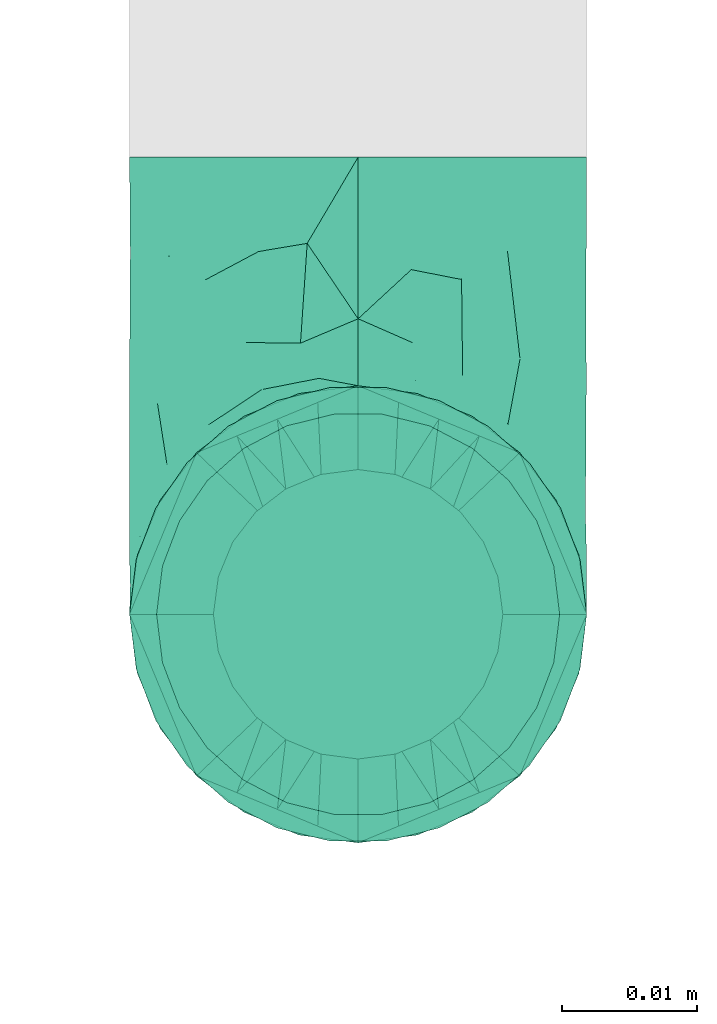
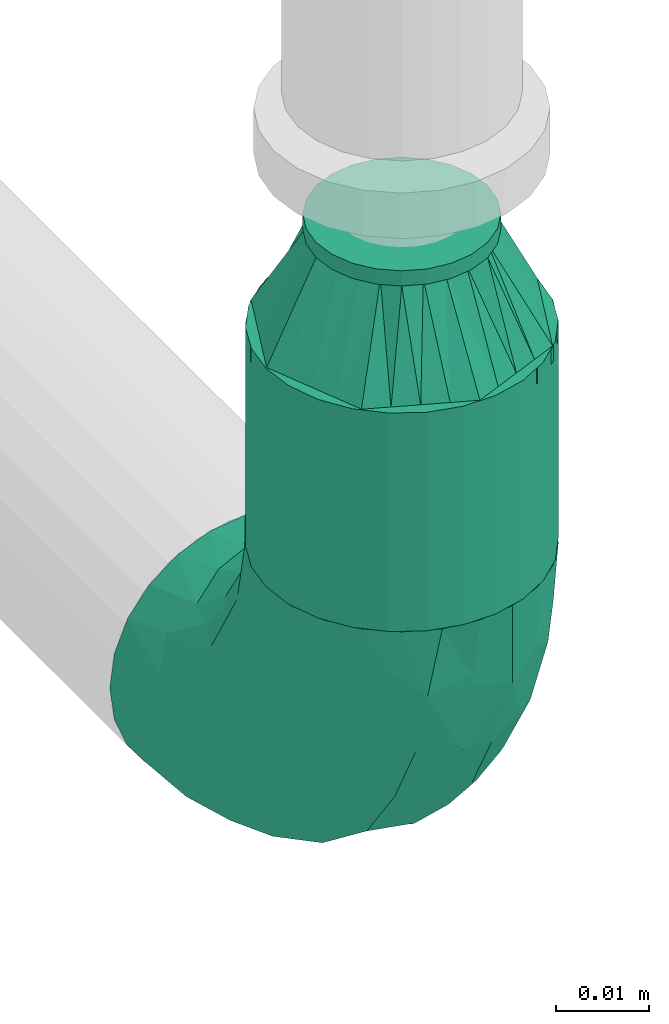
# One storey, part 8 of 31: 2 flow fittings, 1 flow segment.
"""IFC2X3 building model written with IfcOpenShell, lengths in millimetres."""

from ifc_helpers import new_model, entity, si_unit, converted_unit, derived_unit, direction, frame, origin_with_axes, origin_2d_with_axis, place, context, subcontext, project, spatial, hollow_circle, extrude, open_shell, surface_model, source, transform, mapped, type_object, element, save


model = new_model("IFC2X3")

# Units and contexts
model_context = context("Model", 3, precision=0.01, world=frame((0.0, 4.29681676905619e-09, 0.0)), true_north=direction((4.01073788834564e-13, 1.0)))
plan_context = context("Plan", 3, precision=0.01, world=frame((0.0, 4.29681676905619e-09, 0.0)), true_north=direction((4.01073788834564e-13, 1.0)))
body_context = subcontext(model_context, "Body", "Model", "MODEL_VIEW")
ifc_project = project(units=[converted_unit("PLANEANGLEUNIT", "DEGREE", entity("IfcPositiveLengthMeasure", 0.0174532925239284), si_unit("PLANEANGLEUNIT", "RADIAN"), dimensions=[0, 0, 0, 0, 0, 0, 0]), si_unit("AREAUNIT", "SQUARE_METRE"), si_unit("LENGTHUNIT", "METRE", prefix="MILLI"), si_unit("MASSUNIT", "GRAM", prefix="KILO"), si_unit("POWERUNIT", "WATT"), si_unit("PRESSUREUNIT", "PASCAL", prefix="KILO"), si_unit("FORCEUNIT", "NEWTON", prefix="KILO"), si_unit("ELECTRICVOLTAGEUNIT", "VOLT"), si_unit("ELECTRICCURRENTUNIT", "AMPERE"), si_unit("THERMODYNAMICTEMPERATUREUNIT", "DEGREE_CELSIUS"), si_unit("TIMEUNIT", "SECOND"), si_unit("VOLUMEUNIT", "CUBIC_METRE"), derived_unit("LINEARVELOCITYUNIT", [(si_unit("LENGTHUNIT", "METRE"), 1), (si_unit("TIMEUNIT", "SECOND"), -1)]), derived_unit("VOLUMETRICFLOWRATEUNIT", [(si_unit("VOLUMEUNIT", "CUBIC_METRE"), 1), (si_unit("TIMEUNIT", "SECOND"), -1)]), derived_unit("THERMALTRANSMITTANCEUNIT", [(si_unit("POWERUNIT", "WATT"), 1), (si_unit("THERMODYNAMICTEMPERATUREUNIT", "KELVIN"), -1), (si_unit("AREAUNIT", "SQUARE_METRE"), -1)]), derived_unit("SOUNDPRESSUREUNIT", [(si_unit("PRESSUREUNIT", "PASCAL"), 1)])], contexts=[model_context, plan_context])

# Site, building, storey
site_placement = place(None, frame((0.0, -4.29681676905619e-09, 0.0), z_axis=(0.0, 0.0, 1.0), x_axis=(1.0, 0.0, 0.0)))
site = spatial("IfcSite", under=ifc_project, at=site_placement, CompositionType="ELEMENT")
building_placement = place(site_placement, frame((0.0, 4.29681676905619e-09, 0.0), z_axis=(0.0, 0.0, 1.0), x_axis=(1.0, 0.0, 0.0)))
building = spatial("IfcBuilding", under=site, at=building_placement, Name="mc-building", CompositionType="ELEMENT")
storey_placement = place(building_placement, frame((0.0, 0.0, 200300.0), z_axis=(0.0, 0.0, 1.0), x_axis=(1.0, 0.0, 0.0)))
storey = spatial("IfcBuildingStorey", under=building, at=storey_placement, Name="Nivå C", CompositionType="ELEMENT", Elevation=200300.0)

# Flow fittings
pipe_fitting_type_1 = type_object("IfcPipeFittingType", Name="magi_pipe_fe_reducer_centric_short_NOR", PredefinedType="TRANSITION")
shared_shape_1 = source(origin_with_axes(), body_context, "Body", "SurfaceModel", [
    surface_model("IfcShellBasedSurfaceModel", [(14.4, 5.35, -9.26647), (14.4, 0.0, -10.7), (14.4, 2.76936, -10.33541), (14.4, 10.33541, -2.76936), (14.4, 7.56604, -7.56604), (14.4, -10.33541, -2.76936), (14.4, 9.26647, -5.35), (14.4, 0.0, 10.7), (14.4, -5.35, -9.26647), (14.4, -2.76936, -10.33541), (14.4, -7.56604, -7.56604), (14.4, -9.26647, -5.35), (14.4, 10.7, 0.0), (14.4, 10.33541, 2.76936), (14.4, 9.26647, 5.35), (14.4, 7.56604, 7.56604), (14.4, 2.76936, 10.33541), (14.4, 5.35, 9.26647), (14.4, -10.33541, 2.76936), (14.4, -7.56604, 7.56604), (14.4, -9.26647, 5.35), (14.4, -10.7, 0.0), (14.4, -2.76936, 10.33541), (14.4, -5.35, 9.26647), (12.4, 2.76936, 10.33541), (12.4, -10.33541, -2.76936), (12.4, 0.0, 10.7), (12.4, 5.35, 9.26647), (12.4, 7.56604, 7.56604), (12.4, 9.26647, 5.35), (12.4, 10.33541, 2.76936), (12.4, -10.33541, 2.76936), (12.4, -2.76936, 10.33541), (12.4, -7.56604, 7.56604), (12.4, -5.35, 9.26647), (12.4, -9.26647, 5.35), (12.4, -10.7, 0.0), (12.4, 10.33541, -2.76936), (12.4, 5.35, -9.26647), (12.4, 9.26647, -5.35), (12.4, 7.56604, -7.56604), (12.4, 2.76936, -10.33541), (12.4, -9.26647, -5.35), (12.4, -5.35, -9.26647), (12.4, -7.56604, -7.56604), (12.4, 0.0, -10.7), (12.4, -2.76936, -10.33541), (12.4, 10.7, 0.0), (-2.0, 11.9501, 11.9501), (-2.0, 0.0, 16.9), (-2.0, 4.37404, 16.32415), (-2.0, 8.45, 14.63583), (-2.0, 14.63583, 8.45), (-2.0, 16.32415, 4.37404), (-2.0, -16.32415, 4.37404), (-2.0, -8.45, 14.63583), (-2.0, -14.63583, 8.45), (-2.0, -11.9501, 11.9501), (-2.0, -4.37404, 16.32415), (-2.0, -16.32415, -4.37404), (-2.0, -16.9, 0.0), (-2.0, -8.45, -14.63583), (-2.0, 16.32415, -4.37404), (-2.0, 11.9501, -11.9501), (-2.0, 14.63583, -8.45), (-2.0, 8.45, -14.63583), (-2.0, 4.37404, -16.32415), (-2.0, 0.0, -16.9), (-2.0, -11.9501, -11.9501), (-2.0, -14.63583, -8.45), (-2.0, -4.37404, -16.32415), (-2.0, 16.9, 0.0), (0.0, 4.37404, -16.32415), (0.0, 8.45, -14.63583), (0.0, 11.9501, -11.9501), (0.0, 0.0, -16.9), (0.0, 16.32415, -4.37404), (0.0, 16.32415, 4.37404), (0.0, 14.63583, -8.45), (0.0, -8.45, -14.63583), (0.0, -4.37404, -16.32415), (0.0, -11.9501, -11.9501), (0.0, -16.32415, -4.37404), (0.0, -14.63583, -8.45), (0.0, -16.32415, 4.37404), (0.0, 16.9, 0.0), (0.0, 14.63583, 8.45), (0.0, 11.9501, 11.9501), (0.0, 4.37404, 16.32415), (0.0, 8.45, 14.63583), (0.0, 0.0, 16.9), (0.0, -14.63583, 8.45), (0.0, -16.9, 0.0), (0.0, -8.45, 14.63583), (0.0, -11.9501, 11.9501), (0.0, -4.37404, 16.32415), (12.4, 9.3625, -2.31662), (0.0, 14.42505, -5.97505), (0.0, 15.66253, -2.98753), (12.4, -6.6875, -6.94985), (0.0, -13.18758, -8.96258), (0.0, 2.98753, -15.66253), (12.4, 0.0, -9.26647), (12.4, 6.6875, -6.94985), (0.0, 8.96258, -13.18758), (12.4, -9.3625, -2.31662), (0.0, -15.66253, -2.98753), (0.0, -14.42505, -5.97505), (0.0, 5.97505, -14.42505), (0.0, -2.98753, -15.66253), (0.0, -8.96258, -13.18758), (0.0, 13.18758, -8.96258), (12.4, 8.025, -4.63324), (12.4, -2.675, -9.26647), (12.4, 2.675, -9.26647), (0.0, -5.97505, -14.42505), (12.4, -8.025, -4.63324), (12.4, -9.3625, 2.31662), (0.0, -14.42505, 5.97505), (0.0, -15.66253, 2.98753), (12.4, 6.6875, 6.94985), (0.0, 13.18758, 8.96258), (0.0, -2.98753, 15.66253), (12.4, 0.0, 9.26647), (12.4, -6.6875, 6.94985), (0.0, -8.96258, 13.18758), (12.4, 9.3625, 2.31662), (0.0, 15.66253, 2.98753), (0.0, 14.42505, 5.97505), (0.0, -5.97505, 14.42505), (0.0, 2.98753, 15.66253), (0.0, 8.96258, 13.18758), (0.0, -13.18758, 8.96258), (12.4, -8.025, 4.63324), (12.4, 2.675, 9.26647), (12.4, -2.675, 9.26647), (0.0, 5.97505, 14.42505), (12.4, 8.025, 4.63324)], [open_shell([[[0, 1, 2]], [[3, 0, 4]], [[5, 0, 3]], [[3, 4, 6]], [[7, 5, 3]], [[1, 8, 9]], [[1, 0, 8]], [[10, 5, 11]], [[5, 10, 8]], [[0, 5, 8]], [[3, 12, 13]], [[13, 14, 15]], [[13, 15, 16]], [[7, 3, 16]], [[16, 15, 17]], [[7, 18, 5]], [[18, 19, 20]], [[21, 5, 18]], [[19, 22, 23]], [[22, 19, 18]], [[7, 22, 18]], [[13, 16, 3]], [[24, 25, 26]], [[27, 25, 24]], [[28, 29, 30]], [[28, 25, 27]], [[31, 26, 25]], [[32, 33, 34]], [[33, 32, 31]], [[33, 31, 35]], [[32, 26, 31]], [[31, 25, 36]], [[30, 37, 28]], [[25, 28, 37]], [[38, 37, 39]], [[37, 38, 25]], [[38, 39, 40]], [[41, 25, 38]], [[42, 43, 44]], [[43, 42, 25]], [[43, 45, 46]], [[43, 25, 41]], [[41, 45, 43]], [[37, 30, 47]], [[25, 5, 36]], [[42, 11, 25]], [[8, 44, 43]], [[42, 44, 10]], [[9, 43, 46]], [[25, 11, 5]], [[5, 21, 36]], [[9, 8, 43]], [[10, 44, 8]], [[10, 11, 42]], [[1, 9, 46]], [[46, 45, 1]], [[41, 2, 45]], [[38, 0, 41]], [[6, 40, 39]], [[38, 40, 4]], [[3, 39, 37]], [[38, 4, 0]], [[0, 2, 41]], [[12, 3, 37]], [[6, 39, 3]], [[6, 4, 40]], [[47, 12, 37]], [[45, 2, 1]], [[30, 13, 47]], [[29, 14, 30]], [[17, 28, 27]], [[29, 28, 15]], [[16, 27, 24]], [[30, 14, 13]], [[13, 12, 47]], [[16, 17, 27]], [[15, 28, 17]], [[15, 14, 29]], [[7, 16, 24]], [[24, 26, 7]], [[32, 22, 26]], [[34, 23, 32]], [[20, 33, 35]], [[34, 33, 19]], [[18, 35, 31]], [[34, 19, 23]], [[23, 22, 32]], [[21, 18, 31]], [[20, 35, 18]], [[20, 19, 33]], [[36, 21, 31]], [[26, 22, 7]], [[48, 49, 50]], [[48, 50, 51]], [[48, 52, 53]], [[48, 53, 49]], [[49, 53, 54]], [[55, 56, 57]], [[55, 58, 49]], [[56, 55, 49]], [[49, 54, 56]], [[54, 59, 60]], [[54, 53, 61]], [[53, 62, 63]], [[63, 62, 64]], [[63, 65, 66]], [[61, 53, 63]], [[67, 63, 66]], [[59, 68, 69]], [[68, 59, 61]], [[61, 67, 70]], [[59, 54, 61]], [[63, 67, 61]], [[53, 71, 62]], [[72, 73, 74]], [[75, 72, 74]], [[74, 76, 77]], [[76, 74, 78]], [[74, 77, 79]], [[75, 79, 80]], [[75, 74, 79]], [[81, 82, 83]], [[82, 81, 79]], [[79, 84, 82]], [[77, 76, 85]], [[77, 86, 87]], [[77, 87, 88]], [[88, 84, 79]], [[88, 87, 89]], [[84, 88, 90]], [[90, 91, 84]], [[92, 82, 84]], [[91, 93, 94]], [[91, 90, 93]], [[93, 90, 95]], [[79, 77, 88]], [[59, 82, 60]], [[69, 83, 59]], [[79, 68, 61]], [[69, 68, 81]], [[80, 61, 70]], [[59, 83, 82]], [[82, 92, 60]], [[80, 79, 61]], [[81, 68, 79]], [[81, 83, 69]], [[75, 80, 70]], [[70, 67, 75]], [[66, 72, 67]], [[65, 73, 66]], [[78, 63, 64]], [[65, 63, 74]], [[76, 64, 62]], [[65, 74, 73]], [[73, 72, 66]], [[85, 76, 62]], [[78, 64, 76]], [[78, 74, 63]], [[71, 85, 62]], [[67, 72, 75]], [[53, 77, 71]], [[52, 86, 53]], [[89, 48, 51]], [[52, 48, 87]], [[88, 51, 50]], [[53, 86, 77]], [[77, 85, 71]], [[88, 89, 51]], [[87, 48, 89]], [[87, 86, 52]], [[90, 88, 50]], [[50, 49, 90]], [[58, 95, 49]], [[55, 93, 58]], [[91, 57, 56]], [[55, 57, 94]], [[84, 56, 54]], [[55, 94, 93]], [[93, 95, 58]], [[92, 84, 54]], [[91, 56, 84]], [[91, 94, 57]], [[60, 92, 54]], [[49, 95, 90]], [[27, 34, 47]], [[47, 34, 43]], [[43, 38, 47]], [[43, 34, 36]], [[90, 87, 94]], [[92, 94, 87]], [[87, 74, 92]], [[75, 92, 74]], [[81, 92, 75]], [[74, 87, 85]], [[96, 97, 98]], [[81, 99, 100]], [[101, 102, 75]], [[98, 85, 47]], [[74, 103, 104]], [[104, 103, 38]], [[105, 106, 107]], [[38, 108, 104]], [[102, 109, 75]], [[110, 99, 81]], [[47, 96, 98]], [[103, 111, 112]], [[109, 102, 113]], [[36, 92, 106]], [[102, 101, 114]], [[110, 115, 43]], [[96, 112, 97]], [[107, 116, 105]], [[36, 106, 105]], [[113, 115, 109]], [[43, 115, 113]], [[116, 107, 100]], [[108, 38, 114]], [[111, 103, 74]], [[111, 97, 112]], [[99, 110, 43]], [[116, 100, 99]], [[101, 108, 114]], [[117, 118, 119]], [[87, 120, 121]], [[122, 123, 90]], [[119, 92, 36]], [[94, 124, 125]], [[125, 124, 34]], [[126, 127, 128]], [[34, 129, 125]], [[123, 130, 90]], [[131, 120, 87]], [[36, 117, 119]], [[124, 132, 133]], [[130, 123, 134]], [[47, 85, 127]], [[123, 122, 135]], [[131, 136, 27]], [[117, 133, 118]], [[128, 137, 126]], [[47, 127, 126]], [[134, 136, 130]], [[27, 136, 134]], [[137, 128, 121]], [[129, 34, 135]], [[132, 124, 94]], [[132, 118, 133]], [[120, 131, 27]], [[137, 121, 120]], [[122, 129, 135]]])]),
])
flow_fitting_1_placement = place(storey_placement, frame((605500.0, 397923.19532, 2962.64799999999), z_axis=(0.0, 1.0, 0.0), x_axis=(0.0, 0.0, 1.0)))
element("IfcFlowFitting", 1, at=flow_fitting_1_placement, inside=storey, type_object=pipe_fitting_type_1, Name="magi_pipe_fe_reducer_centric_short_NOR", context=body_context, shape_type="MappedRepresentation", body=[
    mapped(shared_shape_1, transform((0.0, 0.0, 0.0), scale=1.0)),
])
pipe_fitting_type_2 = type_object("IfcPipeFittingType", Name="magi_pipe_fe_elbow_short_001", PredefinedType="BEND")
shared_shape_2 = source(origin_with_axes(), body_context, "Body", "SurfaceModel", [
    surface_model("IfcShellBasedSurfaceModel", [(-33.8, 8.45, -14.63583), (-33.8, 4.37404, -16.32415), (-33.8, 11.9501, -11.9501), (-33.8, -11.9501, -11.9501), (-33.8, -14.63583, -8.45), (-33.8, -8.45, -14.63583), (-33.8, 0.0, -16.9), (-33.8, -4.37404, -16.32415), (-33.8, -4.37404, 16.32415), (-33.8, 0.0, 16.9), (-33.8, -8.45, 14.63583), (-33.8, 16.32415, -4.37404), (-33.8, 14.63583, -8.45), (-33.8, -16.32415, -4.37404), (-33.8, -16.9, 0.0), (-33.8, -16.32415, 4.37404), (-33.8, 11.9501, 11.9501), (-33.8, 14.63583, 8.45), (-33.8, 16.32415, 4.37404), (-33.8, 4.37404, 16.32415), (-33.8, 8.45, 14.63583), (-33.8, -14.63583, 8.45), (-33.8, -11.9501, 11.9501), (-33.8, 16.9, 0.0), (-11.9501, 33.8, -11.9501), (0.0, 33.8, -16.9), (-4.37404, 33.8, -16.32415), (-8.45, 33.8, -14.63583), (-14.63583, 33.8, -8.45), (-16.32415, 33.8, -4.37404), (14.63583, 33.8, -8.45), (8.45, 33.8, 14.63583), (16.32415, 33.8, -4.37404), (8.45, 33.8, -14.63583), (11.9501, 33.8, -11.9501), (4.37404, 33.8, -16.32415), (16.32415, 33.8, 4.37404), (16.9, 33.8, 0.0), (-11.9501, 33.8, 11.9501), (-16.32415, 33.8, 4.37404), (-14.63583, 33.8, 8.45), (-8.45, 33.8, 14.63583), (-4.37404, 33.8, 16.32415), (11.9501, 33.8, 11.9501), (14.63583, 33.8, 8.45), (0.0, 33.8, 16.9), (4.37404, 33.8, 16.32415), (-16.9, 33.8, 0.0), (-24.79389, -13.12945, 9.48721), (-22.19287, -9.75018, 12.59315), (-24.09897, -14.97035, 0.0), (-14.93934, -10.76256, 8.5297), (-22.46095, -14.75051, 5.27077), (14.75051, 22.46094, 5.27077), (11.9251, 13.23888, 4.33236), (13.04069, 14.39795, 0.0), (7.71387, 13.68847, 11.55891), (9.75018, 22.19287, 12.59315), (4.10169, 13.0571, 14.04018), (-24.84007, -6.39063, 15.2048), (-25.81779, -2.23879, 16.61097), (-23.66549, 2.59054, 16.87119), (-26.50418, 14.06512, 11.08152), (-24.21253, 17.66365, 7.72657), (-29.58514, 15.86957, 7.00283), (-6.17382, -7.5455, 0.0), (-13.23888, -11.9251, 4.33236), (-14.39795, -13.04069, 0.0), (-17.81434, 18.87373, 11.97104), (-6.30846, 29.15138, 15.82987), (-2.31622, 25.28002, 16.85849), (-29.23923, 10.23435, 13.77053), (-1.45439, -2.85688, 7.61475), (-0.28326, 0.34872, 10.09509), (-5.74484, -4.04709, 10.4122), (-4.41137, 11.31918, 16.59407), (-8.39727, 3.10034, 15.7812), (-1.72649, 9.1306, 15.53089), (-17.39909, 24.75344, 7.64977), (-26.19233, 20.0512, 0.0), (-28.14518, 17.29657, 4.25857), (-26.05147, 6.6281, 15.96447), (-5.87354, 16.61944, 16.86968), (-12.51807, 12.51807, 16.48937), (-10.06312, 7.38516, 16.81295), (-3.01882, 3.01882, 13.81718), (-13.0571, -4.10169, 14.04018), (-16.82553, -0.15166, 16.38038), (10.76256, 14.93934, 8.5297), (13.12945, 24.79389, 9.48721), (6.39063, 24.84007, 15.2048), (2.23879, 25.81779, 16.61097), (-13.68847, -7.71387, 11.55891), (14.97035, 24.09897, 0.0), (-7.30894, 22.89991, 16.09489), (-10.67958, 26.17414, 14.008), (-12.78295, 18.26924, 15.06066), (-13.88562, 22.45231, 12.93244), (-18.04944, 15.16501, 14.04434), (-23.11658, 20.08178, 4.02986), (-21.84989, 21.84989, 0.0), (-18.55817, 25.48277, 3.93065), (-13.95142, 26.94732, 11.03289), (-18.57098, 7.23906, 16.59756), (-16.58335, 4.14122, 16.89279), (-17.96666, 11.46709, 15.63151), (-9.84453, 17.54304, 16.18938), (0.15166, 16.82553, 16.38038), (-23.27207, 11.47201, 14.23154), (3.84842, 5.86994, 10.70473), (-8.0212, -7.54413, 7.93275), (1.00345, -2.19508, 4.57414), (5.13203, 3.01004, 5.90201), (5.24161, 1.7543, 2.53265), (8.70457, 7.04947, 3.99182), (-20.0512, 26.19233, 0.0), (8.4852, 8.76699, 7.09296), (-4.55488, -6.72064, 4.90681), (2.05031, -2.05031, 0.0), (7.5455, 6.17382, 0.0), (-26.75399, 2.1369, -16.845), (-14.61995, 24.73803, -11.27736), (-28.45274, -13.45335, -9.81895), (-26.00469, 6.63555, -15.96645), (-23.06726, 20.04573, -4.26202), (-13.80647, -4.26506, -14.17873), (-14.67501, -0.21081, -16.07388), (-6.7902, -0.2828, -13.8478), (-24.53586, 11.08096, -14.13417), (-26.72048, 14.00837, -11.05776), (10.0967, 24.44989, -12.75976), (5.83237, 21.40218, -15.03047), (6.66249, 28.54238, -15.38093), (-20.38182, 15.48705, -12.74596), (12.53268, 21.23441, -9.15363), (12.54494, 15.67504, -5.54878), (9.7522, 12.89279, -8.66343), (-15.65186, 19.64213, -13.01327), (-12.03528, 20.66498, -14.67665), (-15.61907, 15.61906, -14.83879), (-25.56551, -15.26206, 0.0), (-24.65452, -15.12934, -5.50955), (13.45335, 28.45274, -9.81895), (15.12934, 24.65452, -5.50955), (-7.35442, -8.31014, -5.65563), (-15.67504, -12.54494, -5.54878), (-24.44989, -10.0967, -12.75976), (0.16522, 0.41303, -9.71728), (-5.70658, -5.33066, -8.89288), (-5.13869, -2.37198, -11.53565), (-21.23441, -12.53268, -9.15363), (0.71146, 7.93863, -14.09382), (0.21081, 14.67501, -16.07388), (3.49291, 14.42772, -14.76381), (-24.89911, -2.13088, -16.591), (-28.54238, -6.66249, -15.38093), (-18.44386, -7.71663, -13.26957), (2.13088, 24.89911, -16.591), (-28.64342, 17.44413, -2.89318), (1.70017, -1.28722, -5.09504), (-16.57067, 26.81947, -7.36596), (-17.69055, 27.4263, -3.76405), (-12.89279, -9.7522, -8.66343), (-5.96611, 5.96611, -15.95814), (-20.53709, 20.09345, -8.28985), (-2.1369, 26.75399, -16.845), (-6.89872, 24.58781, -16.02578), (-10.60739, 26.53157, -13.98044), (-21.40218, -5.83237, -15.03047), (2.93192, 5.89627, -11.55917), (6.89393, 12.61842, -11.82233), (5.58056, 5.95325, -8.79455), (-3.99512, 18.61798, -16.89635), (8.31014, 7.35442, -5.65563), (-9.1383, 9.86148, -16.89041), (-9.99983, 16.02119, -16.39699), (-16.68576, 9.78031, -16.34199), (-27.01915, 16.61158, -7.12979), (15.26206, 25.56551, 0.0), (-18.61798, 3.99512, -16.89635), (-19.37495, 27.82495, 0.0), (-12.61842, -6.89393, -11.82233), (-18.84705, 19.14018, -10.96545)], [open_shell([[[0, 1, 2]], [[3, 4, 5]], [[6, 7, 5]], [[8, 9, 10]], [[1, 6, 2]], [[11, 12, 2]], [[4, 2, 6]], [[2, 13, 10]], [[5, 4, 6]], [[2, 4, 13]], [[14, 15, 13]], [[11, 2, 16]], [[11, 17, 18]], [[11, 16, 17]], [[19, 20, 16]], [[16, 2, 10]], [[19, 16, 10]], [[21, 22, 15]], [[22, 13, 15]], [[22, 10, 13]], [[10, 9, 19]], [[11, 18, 23]], [[24, 25, 26]], [[24, 26, 27]], [[24, 28, 29]], [[25, 24, 30]], [[31, 32, 24]], [[33, 30, 34]], [[33, 35, 25]], [[25, 30, 33]], [[32, 30, 24]], [[32, 36, 37]], [[38, 24, 29]], [[39, 40, 29]], [[40, 38, 29]], [[38, 41, 42]], [[38, 31, 24]], [[31, 38, 42]], [[36, 43, 44]], [[36, 32, 43]], [[31, 45, 46]], [[32, 31, 43]], [[42, 45, 31]], [[39, 29, 47]], [[22, 48, 49]], [[15, 14, 50]], [[51, 48, 52]], [[53, 54, 55]], [[48, 22, 21]], [[15, 52, 21]], [[56, 57, 58]], [[49, 10, 22]], [[49, 59, 10]], [[9, 60, 61]], [[62, 63, 64]], [[65, 66, 67]], [[57, 43, 31]], [[62, 68, 63]], [[42, 69, 70]], [[20, 71, 16]], [[8, 60, 9]], [[72, 73, 74]], [[75, 76, 77]], [[16, 62, 17]], [[40, 39, 78]], [[79, 23, 80]], [[64, 18, 17]], [[9, 61, 19]], [[19, 81, 20]], [[82, 83, 84]], [[74, 85, 86]], [[59, 86, 87]], [[88, 89, 57]], [[90, 31, 46]], [[44, 53, 36]], [[46, 45, 91]], [[54, 53, 88]], [[44, 89, 53]], [[92, 86, 49]], [[89, 44, 43]], [[10, 59, 8]], [[53, 55, 93]], [[93, 36, 53]], [[66, 52, 67]], [[94, 82, 70]], [[95, 96, 94]], [[97, 98, 96]], [[79, 99, 100]], [[41, 38, 95]], [[101, 100, 99]], [[68, 78, 63]], [[42, 41, 69]], [[23, 18, 80]], [[95, 94, 69]], [[78, 101, 99]], [[38, 102, 95]], [[70, 45, 42]], [[97, 95, 102]], [[15, 50, 52]], [[90, 57, 31]], [[57, 90, 58]], [[81, 19, 61]], [[103, 104, 84]], [[105, 81, 103]], [[38, 40, 102]], [[106, 96, 83]], [[94, 106, 82]], [[91, 70, 107]], [[71, 62, 16]], [[62, 108, 98]], [[86, 59, 49]], [[67, 52, 50]], [[60, 59, 87]], [[92, 49, 51]], [[86, 85, 76]], [[91, 90, 46]], [[37, 36, 93]], [[107, 77, 58]], [[107, 58, 90]], [[58, 85, 109]], [[110, 74, 92]], [[72, 74, 110]], [[66, 51, 52]], [[72, 111, 112]], [[113, 114, 112]], [[56, 88, 57]], [[52, 48, 21]], [[49, 48, 51]], [[57, 89, 43]], [[53, 89, 88]], [[103, 81, 61]], [[71, 81, 108]], [[18, 64, 80]], [[63, 78, 99]], [[47, 115, 101]], [[101, 115, 100]], [[40, 78, 102]], [[68, 102, 78]], [[97, 96, 95]], [[105, 98, 108]], [[103, 84, 83]], [[107, 70, 82]], [[76, 84, 87]], [[82, 84, 75]], [[70, 91, 45]], [[90, 91, 107]], [[59, 60, 8]], [[61, 60, 87]], [[73, 85, 74]], [[109, 112, 116]], [[103, 61, 104]], [[105, 103, 83]], [[96, 105, 83]], [[81, 105, 108]], [[96, 98, 105]], [[62, 98, 68]], [[61, 87, 104]], [[87, 84, 104]], [[86, 76, 87]], [[77, 76, 85]], [[58, 77, 85]], [[75, 77, 107]], [[82, 75, 107]], [[76, 75, 84]], [[81, 71, 20]], [[62, 71, 108]], [[95, 69, 41]], [[70, 69, 94]], [[62, 64, 17]], [[80, 63, 99]], [[63, 80, 64]], [[80, 99, 79]], [[66, 65, 117]], [[110, 66, 117]], [[112, 114, 116]], [[118, 117, 65]], [[110, 92, 51]], [[112, 111, 113]], [[119, 55, 54]], [[74, 86, 92]], [[58, 109, 56]], [[116, 56, 109]], [[66, 110, 51]], [[72, 110, 117]], [[111, 72, 117]], [[73, 112, 109]], [[117, 118, 111]], [[113, 111, 118]], [[118, 119, 113]], [[114, 119, 54]], [[119, 114, 113]], [[116, 54, 88]], [[54, 116, 114]], [[116, 88, 56]], [[112, 73, 72]], [[85, 73, 109]], [[78, 39, 101]], [[47, 101, 39]], [[102, 68, 97]], [[97, 68, 98]], [[82, 106, 83]], [[94, 96, 106]], [[1, 120, 6]], [[28, 24, 121]], [[3, 122, 4]], [[0, 123, 1]], [[100, 124, 79]], [[125, 126, 127]], [[128, 2, 129]], [[130, 131, 132]], [[128, 129, 133]], [[134, 135, 136]], [[137, 138, 139]], [[128, 0, 2]], [[67, 140, 141]], [[134, 142, 143]], [[141, 13, 4]], [[144, 65, 145]], [[146, 3, 5]], [[147, 148, 149]], [[145, 141, 150]], [[151, 152, 153]], [[154, 7, 6]], [[5, 155, 146]], [[150, 146, 156]], [[155, 5, 7]], [[143, 135, 134]], [[35, 157, 25]], [[23, 79, 158]], [[148, 159, 144]], [[160, 161, 29]], [[145, 162, 144]], [[163, 152, 151]], [[29, 28, 160]], [[121, 164, 160]], [[33, 34, 130]], [[25, 165, 26]], [[26, 165, 166]], [[142, 34, 30]], [[24, 27, 167]], [[124, 161, 164]], [[157, 35, 132]], [[155, 154, 168]], [[123, 0, 128]], [[169, 170, 171]], [[172, 157, 152]], [[26, 166, 27]], [[132, 35, 33]], [[142, 130, 34]], [[168, 154, 126]], [[136, 135, 173]], [[133, 137, 139]], [[2, 12, 129]], [[170, 131, 130]], [[30, 32, 143]], [[172, 174, 175]], [[176, 123, 128]], [[158, 177, 11]], [[135, 55, 119]], [[167, 27, 166]], [[175, 166, 172]], [[137, 167, 138]], [[122, 141, 4]], [[140, 14, 13]], [[32, 37, 178]], [[170, 130, 134]], [[152, 157, 131]], [[165, 157, 172]], [[153, 170, 151]], [[152, 163, 174]], [[168, 125, 156]], [[122, 146, 150]], [[120, 154, 6]], [[179, 174, 126]], [[179, 126, 154]], [[126, 163, 127]], [[162, 145, 150]], [[140, 13, 141]], [[32, 178, 143]], [[55, 143, 178]], [[177, 129, 12]], [[128, 133, 139]], [[176, 128, 139]], [[120, 123, 179]], [[121, 160, 28]], [[161, 100, 180]], [[166, 175, 138]], [[121, 24, 167]], [[161, 47, 29]], [[79, 124, 158]], [[124, 164, 177]], [[161, 124, 100]], [[136, 171, 170]], [[127, 163, 151]], [[147, 171, 159]], [[148, 144, 162]], [[127, 151, 169]], [[127, 181, 125]], [[129, 177, 164]], [[12, 11, 177]], [[159, 65, 144]], [[67, 141, 145]], [[143, 55, 135]], [[135, 119, 173]], [[123, 120, 1]], [[154, 120, 179]], [[157, 165, 25]], [[166, 165, 172]], [[172, 152, 174]], [[176, 139, 175]], [[126, 174, 163]], [[176, 174, 179]], [[174, 176, 175]], [[123, 176, 179]], [[150, 181, 162]], [[127, 149, 181]], [[181, 148, 162]], [[159, 148, 147]], [[171, 136, 173]], [[170, 134, 136]], [[159, 171, 173]], [[171, 147, 169]], [[169, 147, 149]], [[151, 170, 169]], [[164, 182, 129]], [[182, 121, 137]], [[181, 149, 148]], [[169, 149, 127]], [[182, 137, 133]], [[167, 137, 121]], [[166, 138, 167]], [[175, 139, 138]], [[129, 182, 133]], [[121, 182, 164]], [[161, 160, 164]], [[47, 161, 180]], [[177, 158, 124]], [[23, 158, 11]], [[130, 132, 33]], [[157, 132, 131]], [[143, 142, 30]], [[130, 142, 134]], [[154, 155, 7]], [[146, 155, 168]], [[146, 122, 3]], [[141, 122, 150]], [[152, 131, 153]], [[159, 119, 118]], [[67, 145, 65]], [[170, 153, 131]], [[119, 159, 173]], [[159, 118, 65]], [[156, 125, 181]], [[126, 125, 168]], [[150, 156, 181]], [[168, 156, 146]]])]),
])
flow_fitting_2_placement = place(storey_placement, frame((605500.0, 397923.19532, 2900.0), z_axis=(1.0, 0.0, 0.0), x_axis=(0.0, 0.0, -1.0)))
element("IfcFlowFitting", 2, at=flow_fitting_2_placement, inside=storey, type_object=pipe_fitting_type_2, Name="magi_pipe_fe_elbow_short_001", context=body_context, shape_type="MappedRepresentation", body=[
    mapped(shared_shape_2, transform((0.0, 0.0, 0.0), scale=1.0)),
])

# Flow segment
pipe_segment_type = type_object("IfcPipeSegmentType", Name="Stålrør normaltykke", PredefinedType="RIGIDSEGMENT")
shared_shape_3 = source(origin_with_axes(), body_context, "Body", "SweptSolid", [
    extrude(hollow_circle(Radius=16.9, WallThickness=2.0, at=origin_2d_with_axis()), frame((0.0, 0.0, 0.0), z_axis=(1.0, 0.0, 0.0), x_axis=(0.0, 1.0, 0.0)), (0.0, 0.0, 1.0), 28.8),
])
flow_segment_placement = place(storey_placement, frame((605500.0, 397923.19532, 2933.79999999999), z_axis=(0.0, 1.0, 0.0), x_axis=(0.0, 0.0, 1.0)))
element("IfcFlowSegment", 3, at=flow_segment_placement, inside=storey, type_object=pipe_segment_type, Name="Stålrør normaltykke", context=body_context, shape_type="MappedRepresentation", body=[
    mapped(shared_shape_3, transform((0.0, 0.0, 0.0), scale=1.0)),
])

save(model, "model.ifc")
